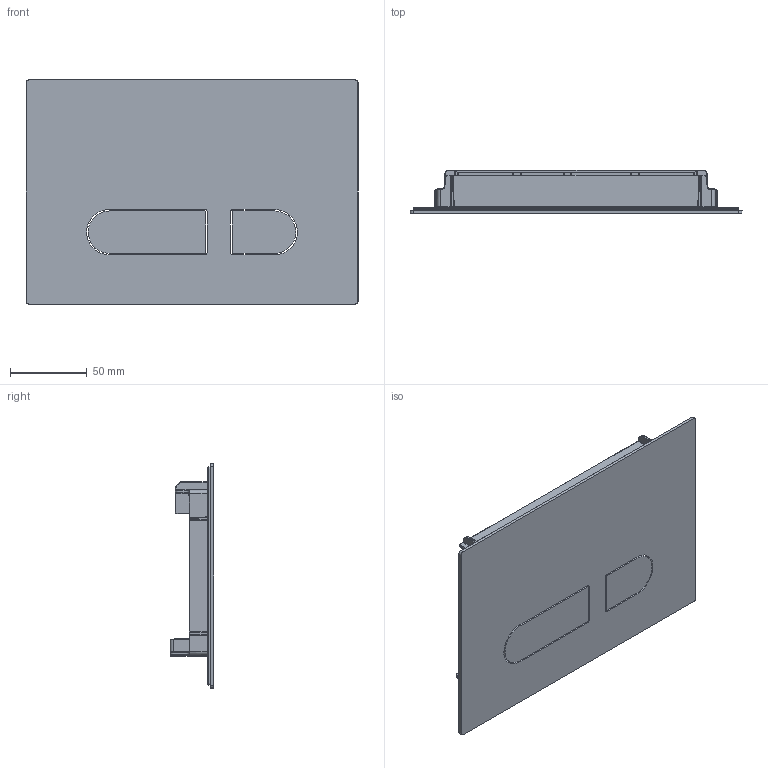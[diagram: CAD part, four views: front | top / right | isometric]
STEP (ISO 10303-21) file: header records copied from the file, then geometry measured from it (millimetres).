
FILE_DESCRIPTION(/* description */ (''),/* implementation_level */ '2;1');
FILE_NAME(/* name */ 'WD5012704060',/* time_stamp */ '2023-04-05T13:49:39+02:00',/* author */ (''),/* organization */ (''),/* preprocessor_version */ 'ST-DEVELOPER v15',/* originating_system */ '',/* authorisation */ '');
FILE_SCHEMA (('AUTOMOTIVE_DESIGN'));
Products named in the file (1): Document
Bounding box: 217 x 28.6 x 146.5 mm (x, y, z)
Volume: 62923 mm3; surface area: 127781 mm2
Topology: 3 solids, 4 shells, 1423 faces, 3453 edges, 1946 vertices
Faces by surface type: bspline 1099, plane 324
Entity records: 88452 total; most frequent: CARTESIAN_POINT 69015, ORIENTED_EDGE 6712, EDGE_CURVE 3367, B_SPLINE_CURVE_WITH_KNOTS 2104, VERTEX_POINT 1946, EDGE_LOOP 1437, ADVANCED_FACE 1423, FACE_OUTER_BOUND 1423
